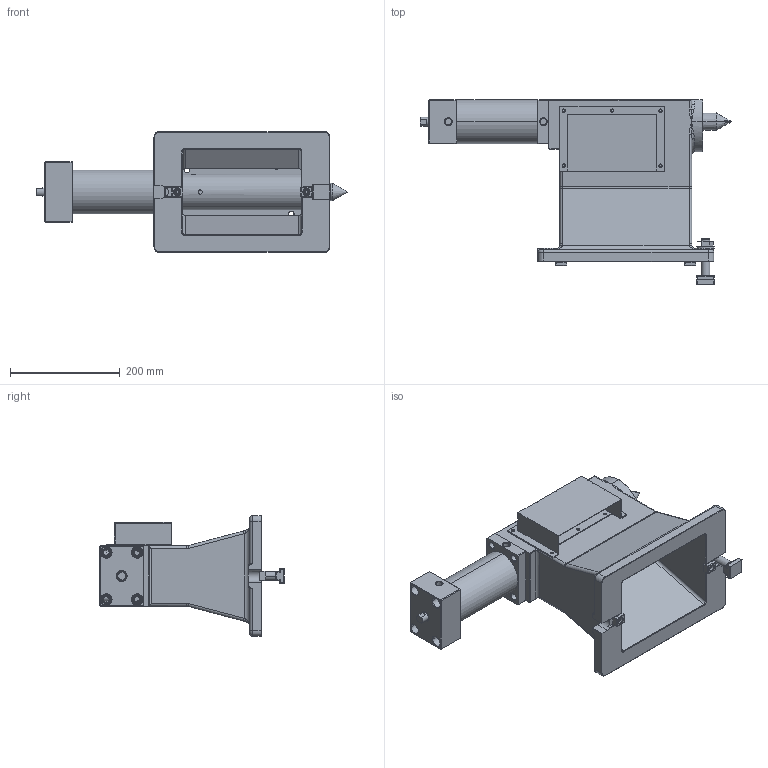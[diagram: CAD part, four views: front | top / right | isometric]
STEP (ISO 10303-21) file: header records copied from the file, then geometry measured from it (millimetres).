
FILE_DESCRIPTION (( 'STEP AP203' ), '1' );
FILE_NAME ('2520097 TP400R-01.STEP', '2020-12-05T05:14:55', ( '' ), ( '' ), 'SwSTEP 2.0', 'SolidWorks 2019', '' );
FILE_SCHEMA (( 'CONFIG_CONTROL_DESIGN' ));
Length unit declared in the file: millimetre
Products named in the file (1): 2520097 TP400R-01
Bounding box: 566.5 x 336 x 220 mm (x, y, z)
Surface area: 679527.7 mm2 (no closed solid volume)
Topology: 0 solids, 17 shells, 456 faces, 1247 edges, 777 vertices
Faces by surface type: plane 186, cylinder 151, cone 71, bspline 28, torus 20
Entity records: 16098 total; most frequent: CARTESIAN_POINT 4774, DIRECTION 2398, ORIENTED_EDGE 2170, EDGE_CURVE 1229, AXIS2_PLACEMENT_3D 866, VERTEX_POINT 777, LINE 666, VECTOR 666
